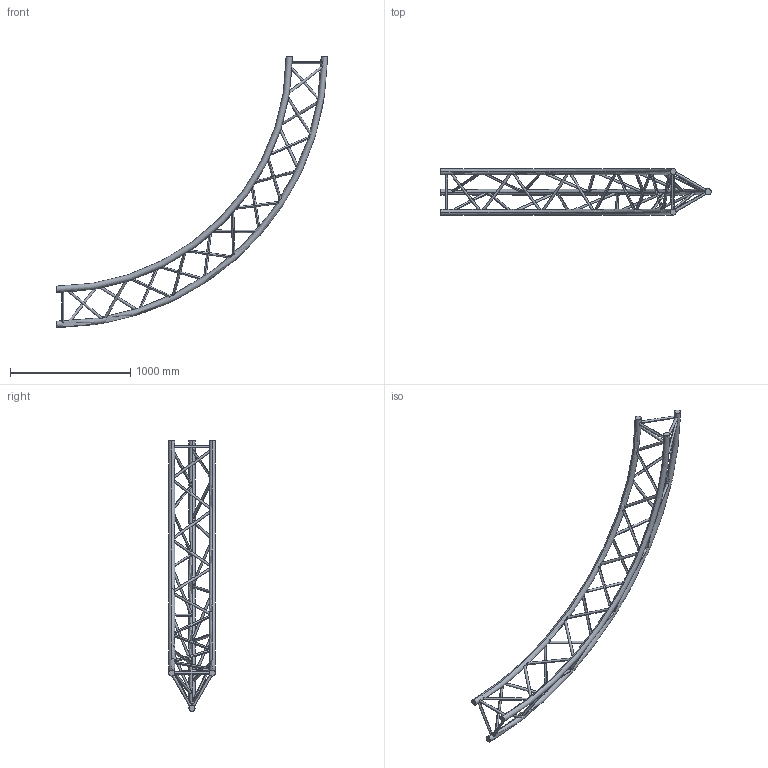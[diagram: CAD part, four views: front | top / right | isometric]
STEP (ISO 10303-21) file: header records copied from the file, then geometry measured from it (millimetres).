
FILE_DESCRIPTION (( 'STEP AP203' ), '1' );
FILE_NAME ('SXC39450PE.STEP', '2009-10-21T12:00:14', ( 'CEDIA' ), ( 'CEDIA INDUSTRIE' ), 'SwSTEP 2.0', 'SolidWorks 2009', '' );
FILE_SCHEMA (( 'CONFIG_CONTROL_DESIGN' ));
Length unit declared in the file: millimetre
Products named in the file (1): SXC39450PE
Bounding box: 2250 x 387 x 2250 mm (x, y, z)
Volume: 23184481.7 mm3; surface area: 2366289.4 mm2
Topology: 1 solids, 1 shells, 90 faces, 252 edges, 168 vertices
Faces by surface type: cylinder 78, torus 6, plane 6
Entity records: 10464 total; most frequent: CARTESIAN_POINT 8208, ORIENTED_EDGE 504, DIRECTION 296, EDGE_CURVE 252, VERTEX_POINT 168, EDGE_LOOP 168, B_SPLINE_CURVE_WITH_KNOTS 156, AXIS2_PLACEMENT_3D 109
